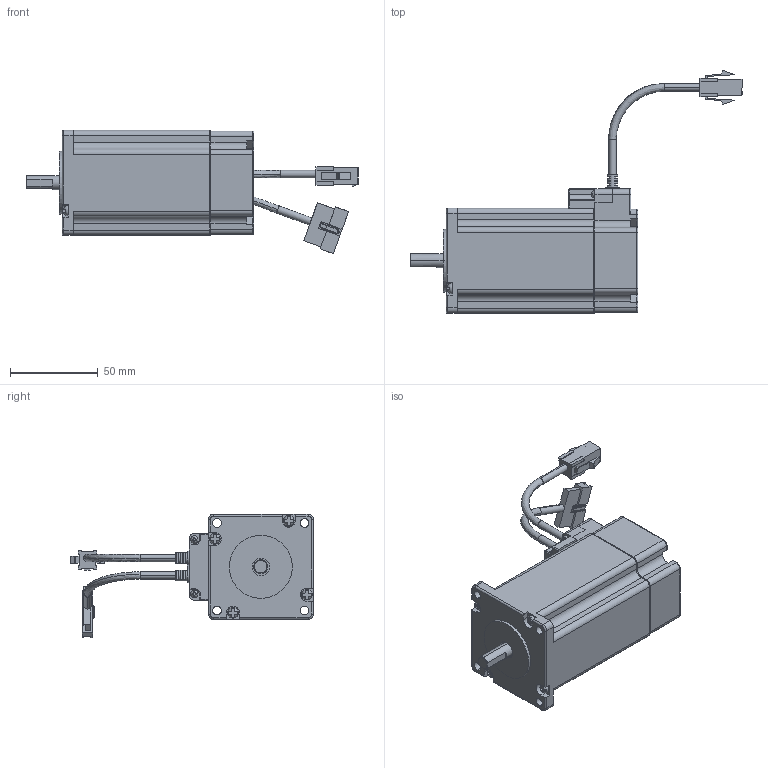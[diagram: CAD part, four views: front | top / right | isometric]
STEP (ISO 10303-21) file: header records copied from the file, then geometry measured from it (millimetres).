
FILE_DESCRIPTION (( 'STEP AP203' ), '1' );
FILE_NAME ('M11-MO-060-03-R00.STEP', '2014-12-21T07:07:33', ( 'Registered User' ), ( 'Microsoft Corporation' ), 'SwSTEP 2.0', 'SolidWorks 2013', '' );
FILE_SCHEMA (( 'CONFIG_CONTROL_DESIGN' ));
Length unit declared in the file: millimetre
Products named in the file (15): M11-EC-060-02-R00; MainM3-screw11-1-1; 60馨檜蝶馨檜綰; MainM3-screw12-1-1; M11-MO-060-03-R00; MainM3-screw8-1-1; MainM3-screw9-1-1; MainM3-screw7-1-1; M11-MO-060-03-R00(EzM-60L-01); MainM3-screw10-1-1; MainPower_Cable_60-1-1; MainEzM-60M-assembly-1; MainEncoder_Cable_60-1-1; M11-EC-060-01-R00; Main60_Encoder_Plate-1-1
Assembly tree (14 placements, depth 4):
  M11-MO-060-03-R00
    M11-MO-060-03-R00(EzM-60L-01)
    60馨檜蝶馨檜綰
      MainEzM-60M-assembly-1
        MainPower_Cable_60-1-1
        MainEncoder_Cable_60-1-1
        Main60_Encoder_Plate-1-1
        MainM3-screw11-1-1
        MainM3-screw12-1-1
        MainM3-screw8-1-1
        MainM3-screw9-1-1
        MainM3-screw7-1-1
        MainM3-screw10-1-1
      M11-EC-060-01-R00
      M11-EC-060-02-R00
Bounding box: 189.6 x 138.61 x 70.49 mm (x, y, z)
Volume: 301095.4 mm3; surface area: 63506.7 mm2
Topology: 12 solids, 12 shells, 926 faces, 2434 edges, 1583 vertices
Faces by surface type: plane 526, cylinder 340, torus 31, bspline 13, cone 8, sphere 8
Entity records: 30753 total; most frequent: CARTESIAN_POINT 5756, DIRECTION 5022, ORIENTED_EDGE 4820, EDGE_CURVE 2410, AXIS2_PLACEMENT_3D 1776, VERTEX_POINT 1579, VECTOR 1470, LINE 1470
